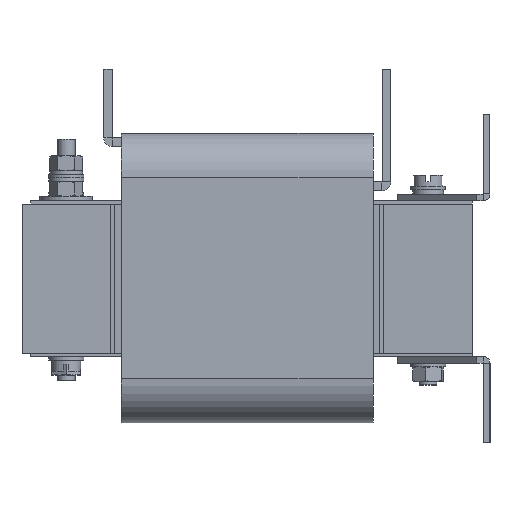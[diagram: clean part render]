
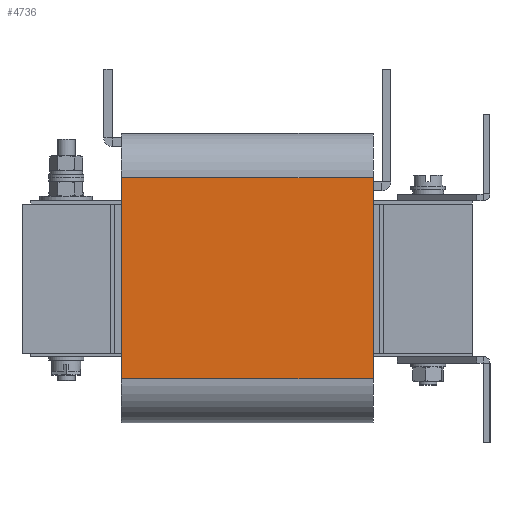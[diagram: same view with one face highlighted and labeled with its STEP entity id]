
A CAD part, left-side view. The second image highlights one B-rep face of the part: STEP entity #4736.
In plain terms, the highlighted planar face has unit normal (-1, 0, 0).
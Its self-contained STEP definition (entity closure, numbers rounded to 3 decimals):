
#314 = VERTEX_POINT ( 'NONE', #16424 ) ;
#1562 = LINE ( 'NONE', #17522, #15888 ) ;
#1935 = ORIENTED_EDGE ( 'NONE', *, *, #2169, .T. ) ;
#2169 = EDGE_CURVE ( 'NONE', #8512, #14816, #10552, .T. ) ;
#3685 = DIRECTION ( 'NONE',  ( 0., 0., 1. ) ) ;
#3701 = CARTESIAN_POINT ( 'NONE',  ( -37., 0., -45.5 ) ) ;
#3752 = CARTESIAN_POINT ( 'NONE',  ( -37., 114., 65.5 ) ) ;
#4736 = ADVANCED_FACE ( 'NONE', ( #9599 ), #16253, .F. ) ;
#4859 = EDGE_LOOP ( 'NONE', ( #5065, #16885, #1935, #14922 ) ) ;
#5065 = ORIENTED_EDGE ( 'NONE', *, *, #9015, .F. ) ;
#5858 = VERTEX_POINT ( 'NONE', #15006 ) ;
#6390 = VECTOR ( 'NONE', #15662, 1000. ) ;
#6774 = AXIS2_PLACEMENT_3D ( 'NONE', #3752, #7946, #17644 ) ;
#7340 = CARTESIAN_POINT ( 'NONE',  ( -37., 0., 65.5 ) ) ;
#7946 = DIRECTION ( 'NONE',  ( 1., 0., 0. ) ) ;
#8512 = VERTEX_POINT ( 'NONE', #3701 ) ;
#8986 = VECTOR ( 'NONE', #12103, 1000. ) ;
#9015 = EDGE_CURVE ( 'NONE', #5858, #314, #1562, .T. ) ;
#9599 = FACE_OUTER_BOUND ( 'NONE', #4859, .T. ) ;
#10552 = LINE ( 'NONE', #7340, #6390 ) ;
#11938 = DIRECTION ( 'NONE',  ( 0., -1., 0. ) ) ;
#12103 = DIRECTION ( 'NONE',  ( 0., 1., 0. ) ) ;
#12690 = LINE ( 'NONE', #17538, #8986 ) ;
#13817 = LINE ( 'NONE', #16036, #17473 ) ;
#14349 = EDGE_CURVE ( 'NONE', #5858, #8512, #13817, .T. ) ;
#14816 = VERTEX_POINT ( 'NONE', #17095 ) ;
#14922 = ORIENTED_EDGE ( 'NONE', *, *, #16095, .T. ) ;
#15006 = CARTESIAN_POINT ( 'NONE',  ( -37., 114., -45.5 ) ) ;
#15662 = DIRECTION ( 'NONE',  ( 0., 0., 1. ) ) ;
#15888 = VECTOR ( 'NONE', #3685, 1000. ) ;
#16036 = CARTESIAN_POINT ( 'NONE',  ( -37., 114., -45.5 ) ) ;
#16095 = EDGE_CURVE ( 'NONE', #14816, #314, #12690, .T. ) ;
#16253 = PLANE ( 'NONE',  #6774 ) ;
#16424 = CARTESIAN_POINT ( 'NONE',  ( -37., 114., 45.5 ) ) ;
#16885 = ORIENTED_EDGE ( 'NONE', *, *, #14349, .T. ) ;
#17095 = CARTESIAN_POINT ( 'NONE',  ( -37., 0., 45.5 ) ) ;
#17473 = VECTOR ( 'NONE', #11938, 1000. ) ;
#17522 = CARTESIAN_POINT ( 'NONE',  ( -37., 114., 65.5 ) ) ;
#17538 = CARTESIAN_POINT ( 'NONE',  ( -37., 114., 45.5 ) ) ;
#17644 = DIRECTION ( 'NONE',  ( 0., 0., -1. ) ) ;
